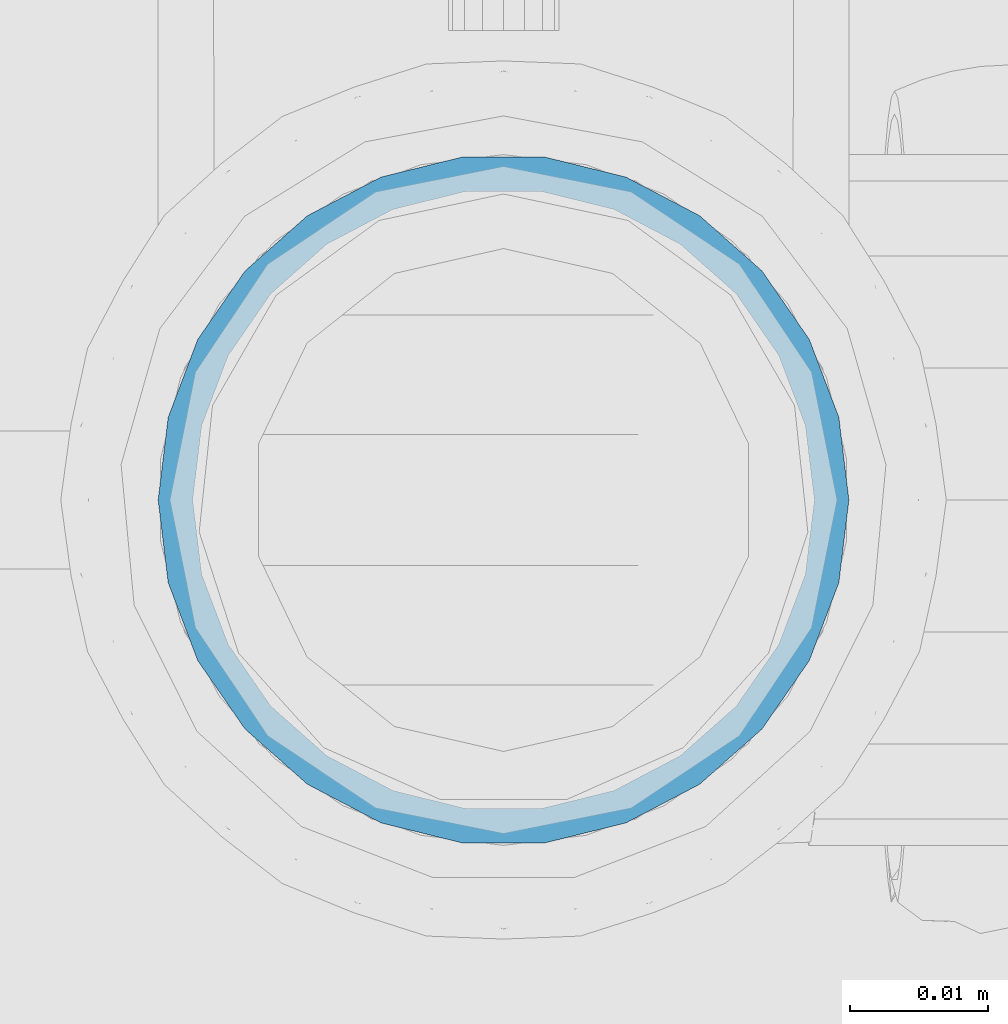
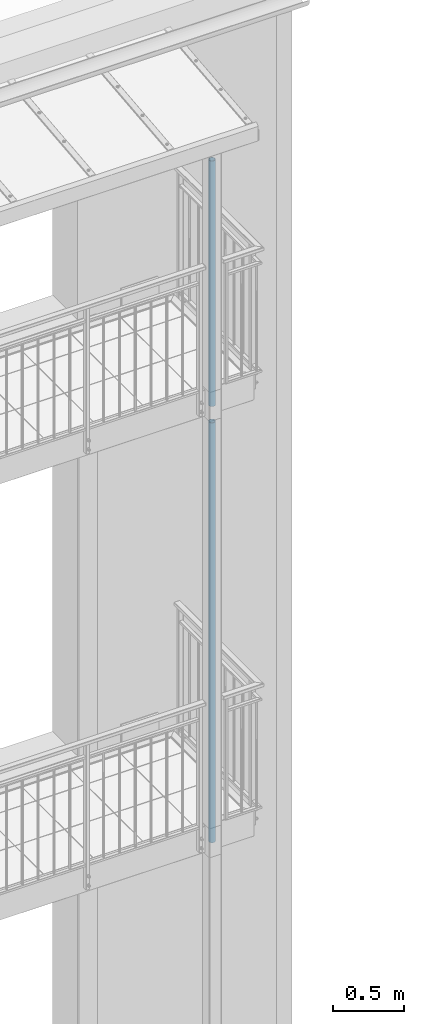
# One storey, part 11 of 162: 2 columns.
"""IFC2X3 building model written with IfcOpenShell, lengths in millimetres."""

from ifc_helpers import new_model, entity, si_unit, converted_unit, frame, origin, origin_with_axes, origin_2d, place, context, project, spatial, hollow_circle, extrude, material, element, save


model = new_model("IFC2X3")

# Units and contexts
model_context = context("Model", 3, precision=1e-09, world=origin_with_axes())
ifc_project = project(units=[si_unit("LENGTHUNIT", "METRE", prefix="MILLI"), si_unit("AREAUNIT", "SQUARE_METRE"), si_unit("VOLUMEUNIT", "CUBIC_METRE"), converted_unit("PLANEANGLEUNIT", "DEGREE", entity("IfcPlaneAngleMeasure", 0.01745329), si_unit("PLANEANGLEUNIT", "RADIAN"), dimensions=[0, 0, 0, 0, 0, 0, 0])], contexts=[model_context])

# Site, building, storey
site_placement = place(None, origin_with_axes())
site = spatial("IfcSite", under=ifc_project, at=site_placement, Name="Hermannstra?e 1a, 60318 Frankfurt", CompositionType="ELEMENT")
building_placement = place(site_placement, origin_with_axes())
building = spatial("IfcBuilding", under=site, at=building_placement, Name="Struktur 1", CompositionType="ELEMENT")
storey_placement = place(building_placement, origin_with_axes())
storey = spatial("IfcBuildingStorey", under=building, at=storey_placement, Name="Default Storey", CompositionType="ELEMENT", Elevation=0.0)

# Columns
ifc_material = material(Name="A500 GR.C")
column_1_placement = place(None, frame((5473.309364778, 1530.609377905, 14956.838347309), z_axis=(0.0, 0.0, 1.0), x_axis=(1.0, 0.0, 0.0)))
element("IfcColumn", 1, at=column_1_placement, inside=storey, material=ifc_material, Name="-", ObjectType="-", context=model_context, shape_type="SweptSolid", body=[
    extrude(hollow_circle(Radius=25.0, WallThickness=2.5, at=origin_2d()), origin(), (0.0, 0.0, -1.0), 3616.839347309),
])
column_2_placement = place(None, frame((5473.309364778, 1530.609377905, 17211.839347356), z_axis=(0.0, 0.0, 1.0), x_axis=(1.0, 0.0, 0.0)))
element("IfcColumn", 2, at=column_2_placement, inside=storey, material=ifc_material, Name="-", ObjectType="-", context=model_context, shape_type="SweptSolid", body=[
    extrude(hollow_circle(Radius=25.0, WallThickness=2.5, at=origin_2d()), origin(), (0.0, 0.0, -1.0), 2114.840347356),
])

save(model, "model.ifc")
